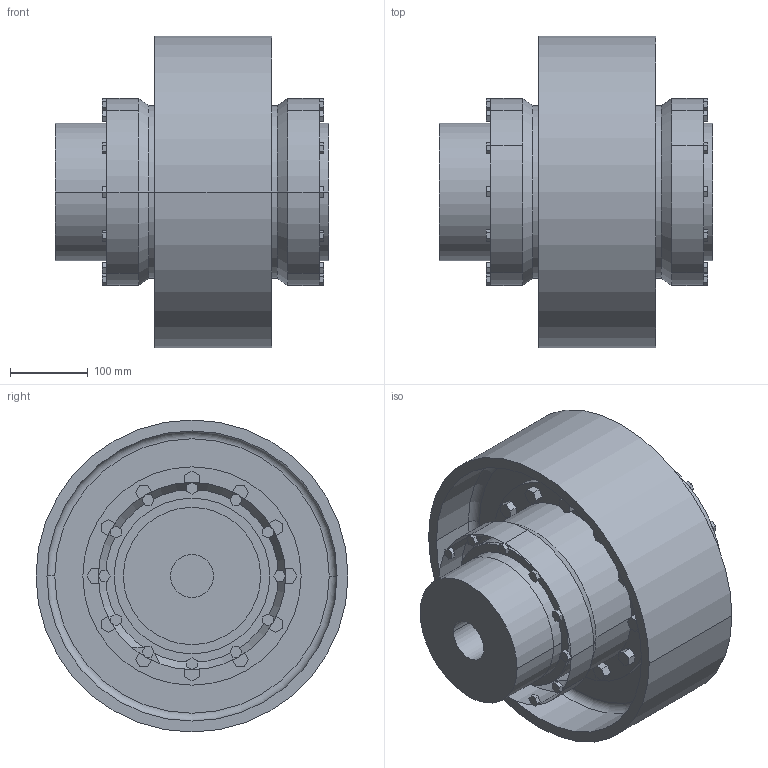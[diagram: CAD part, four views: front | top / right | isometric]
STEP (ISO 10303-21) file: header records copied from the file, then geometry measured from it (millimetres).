
FILE_DESCRIPTION((''),'2;1');
FILE_NAME('A19734700-0_ASM','2019-05-23T',('AB_Roschiwal'),('RENK AG'),'PRO/ENGINEER BY PARAMETRIC TECHNOLOGY CORPORATION, 2015440','PRO/ENGINEER BY PARAMETRIC TECHNOLOGY CORPORATION, 2015440','');
FILE_SCHEMA(('CONFIG_CONTROL_DESIGN'));
Length unit declared in the file: millimetre
Products named in the file (4): SBKD110_GEHAEUSE; SBKD110_NABE; SBKD110_BREMSSCHEIBE; A19734700-0_ASM
Assembly tree (4 placements, depth 2):
  A19734700-0_ASM
    SBKD110_GEHAEUSE
    SBKD110_NABE  x2
    SBKD110_BREMSSCHEIBE
Bounding box: 351 x 400 x 400 mm (x, y, z)
Volume: 13408651.2 mm3; surface area: 1317480.1 mm2
Topology: 4 solids, 4 shells, 474 faces, 1280 edges, 816 vertices
Faces by surface type: plane 370, cylinder 96, cone 4, torus 4
Entity records: 13812 total; most frequent: CARTESIAN_POINT 2382, ORIENTED_EDGE 2320, DIRECTION 2304, EDGE_CURVE 1160, VECTOR 956, LINE 956, VERTEX_POINT 752, AXIS2_PLACEMENT_3D 674
